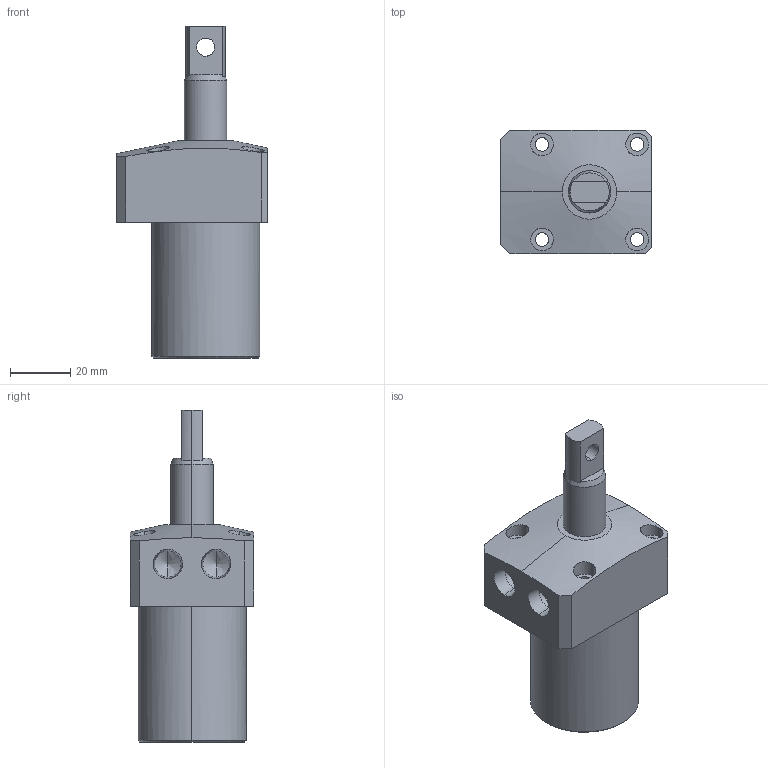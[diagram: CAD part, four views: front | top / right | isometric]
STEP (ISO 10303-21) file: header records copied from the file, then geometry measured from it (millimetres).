
FILE_DESCRIPTION (( 'STEP AP214' ), '1' );
FILE_NAME ('SC02-361-RP.STEP', '2021-08-22T04:32:01', ( '' ), ( '' ), 'SwSTEP 2.0', 'SolidWorks 2019', '' );
FILE_SCHEMA (( 'AUTOMOTIVE_DESIGN' ));
Length unit declared in the file: inch
Products named in the file (4): 36-PTYPE-PISTON.IGS; SC02-36BODY-TOP.IGS; SC02-361-RP; SC02-362-LP.IGS
Assembly tree (3 placements, depth 3):
  SC02-361-RP
    SC02-362-LP.IGS
      SC02-36BODY-TOP.IGS
      36-PTYPE-PISTON.IGS
Bounding box: 50 x 41 x 110 mm (x, y, z)
Volume: 95417.3 mm3; surface area: 21113.4 mm2
Topology: 2 solids, 2 shells, 73 faces, 170 edges, 107 vertices
Faces by surface type: bspline 73
Entity records: 3861 total; most frequent: CARTESIAN_POINT 2702, ORIENTED_EDGE 332, EDGE_CURVE 166, B_SPLINE_CURVE_WITH_KNOTS 114, VERTEX_POINT 107, EDGE_LOOP 93, FACE_OUTER_BOUND 73, ADVANCED_FACE 73
